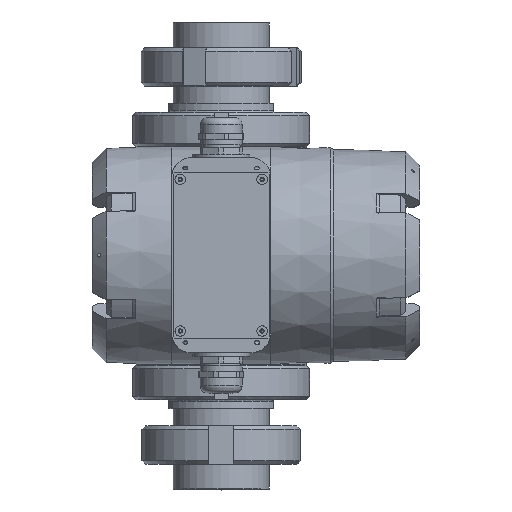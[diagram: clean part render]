
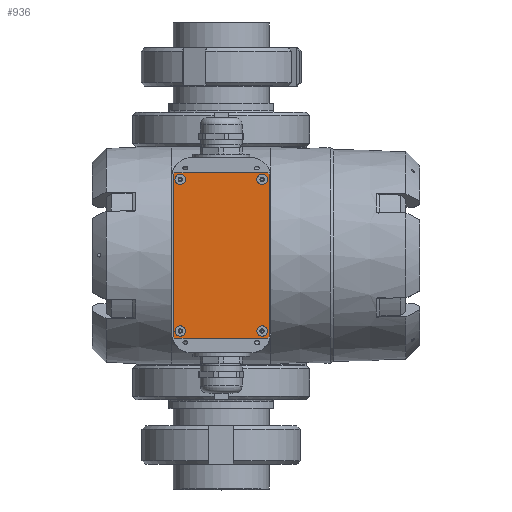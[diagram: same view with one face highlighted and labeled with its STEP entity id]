
A CAD part, top view. The second image highlights one B-rep face of the part: STEP entity #936.
In plain terms, the highlighted planar face has unit normal (0, 0, 1).
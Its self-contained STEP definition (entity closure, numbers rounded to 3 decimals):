
#936=ADVANCED_FACE('',(#8849,#8851,#8853,#8855,#8857),#8859,.T.);
#8849=FACE_BOUND('',#8850,.T.);
#8850=EDGE_LOOP('',(#27449,#27450,#27451,#27452,#27453,#27454,#27455,#27456));
#8851=FACE_BOUND('',#8852,.T.);
#8852=EDGE_LOOP('',(#27457));
#8853=FACE_BOUND('',#8854,.T.);
#8854=EDGE_LOOP('',(#27458));
#8855=FACE_BOUND('',#8856,.T.);
#8856=EDGE_LOOP('',(#27459));
#8857=FACE_BOUND('',#8858,.T.);
#8858=EDGE_LOOP('',(#27460));
#8859=PLANE('',#8860);
#8860=AXIS2_PLACEMENT_3D('',#8861,#8862,#8863);
#8861=CARTESIAN_POINT('',(0.,0.,239.047));
#8862=DIRECTION('',(0.,0.,1.));
#8863=DIRECTION('',(0.,1.,0.));
#27449=ORIENTED_EDGE('',*,*,#31167,.F.);
#27450=ORIENTED_EDGE('',*,*,#31153,.T.);
#27451=ORIENTED_EDGE('',*,*,#31156,.F.);
#27452=ORIENTED_EDGE('',*,*,#31158,.T.);
#27453=ORIENTED_EDGE('',*,*,#31160,.F.);
#27454=ORIENTED_EDGE('',*,*,#31162,.T.);
#27455=ORIENTED_EDGE('',*,*,#31164,.F.);
#27456=ORIENTED_EDGE('',*,*,#31166,.T.);
#27457=ORIENTED_EDGE('',*,*,#31228,.F.);
#27458=ORIENTED_EDGE('',*,*,#31229,.F.);
#27459=ORIENTED_EDGE('',*,*,#31230,.F.);
#27460=ORIENTED_EDGE('',*,*,#31231,.F.);
#31153=EDGE_CURVE('',#33275,#33273,#33276,.T.);
#31156=EDGE_CURVE('',#33278,#33273,#33280,.F.);
#31158=EDGE_CURVE('',#33278,#33281,#33283,.T.);
#31160=EDGE_CURVE('',#33284,#33281,#33286,.F.);
#31162=EDGE_CURVE('',#33284,#33287,#33289,.T.);
#31164=EDGE_CURVE('',#33290,#33287,#33292,.F.);
#31166=EDGE_CURVE('',#33290,#33293,#33295,.T.);
#31167=EDGE_CURVE('',#33275,#33293,#33296,.F.);
#31228=EDGE_CURVE('',#33397,#33397,#33398,.T.);
#31229=EDGE_CURVE('',#33399,#33399,#33400,.T.);
#31230=EDGE_CURVE('',#33401,#33401,#33402,.T.);
#31231=EDGE_CURVE('',#33403,#33403,#33404,.T.);
#33273=VERTEX_POINT('',#38318);
#33275=VERTEX_POINT('',#38322);
#33276=LINE('',#38323,#38324);
#33278=VERTEX_POINT('',#38329);
#33280=LINE('',#38333,#38334);
#33281=VERTEX_POINT('',#38336);
#33283=LINE('',#38340,#38341);
#33284=VERTEX_POINT('',#38343);
#33286=LINE('',#38347,#38348);
#33287=VERTEX_POINT('',#38350);
#33289=LINE('',#38354,#38355);
#33290=VERTEX_POINT('',#38357);
#33292=LINE('',#38361,#38362);
#33293=VERTEX_POINT('',#38364);
#33295=LINE('',#38368,#38369);
#33296=LINE('',#38371,#38372);
#33397=VERTEX_POINT('',#39184);
#33398=CIRCLE('',#39185,3.);
#33399=VERTEX_POINT('',#39189);
#33400=CIRCLE('',#39190,3.);
#33401=VERTEX_POINT('',#39194);
#33402=CIRCLE('',#39195,3.);
#33403=VERTEX_POINT('',#39199);
#33404=CIRCLE('',#39200,3.);
#38318=CARTESIAN_POINT('',(26.5,-47.5,239.047));
#38322=CARTESIAN_POINT('',(-26.5,-47.5,239.047));
#38323=CARTESIAN_POINT('',(-26.5,-47.5,239.047));
#38324=VECTOR('',#38325,1.);
#38325=DIRECTION('',(1.,0.,0.));
#38329=CARTESIAN_POINT('',(27.5,-46.5,239.047));
#38333=CARTESIAN_POINT('',(26.5,-47.5,239.047));
#38334=VECTOR('',#38335,1.);
#38335=DIRECTION('',(0.707,0.707,0.));
#38336=CARTESIAN_POINT('',(27.5,46.5,239.047));
#38340=CARTESIAN_POINT('',(27.5,-46.5,239.047));
#38341=VECTOR('',#38342,1.);
#38342=DIRECTION('',(0.,1.,0.));
#38343=CARTESIAN_POINT('',(26.5,47.5,239.047));
#38347=CARTESIAN_POINT('',(27.5,46.5,239.047));
#38348=VECTOR('',#38349,1.);
#38349=DIRECTION('',(-0.707,0.707,0.));
#38350=CARTESIAN_POINT('',(-26.5,47.5,239.047));
#38354=CARTESIAN_POINT('',(26.5,47.5,239.047));
#38355=VECTOR('',#38356,1.);
#38356=DIRECTION('',(-1.,0.,0.));
#38357=CARTESIAN_POINT('',(-27.5,46.5,239.047));
#38361=CARTESIAN_POINT('',(-26.5,47.5,239.047));
#38362=VECTOR('',#38363,1.);
#38363=DIRECTION('',(-0.707,-0.707,0.));
#38364=CARTESIAN_POINT('',(-27.5,-46.5,239.047));
#38368=CARTESIAN_POINT('',(-27.5,46.5,239.047));
#38369=VECTOR('',#38370,1.);
#38370=DIRECTION('',(0.,-1.,0.));
#38371=CARTESIAN_POINT('',(-27.5,-46.5,239.047));
#38372=VECTOR('',#38373,1.);
#38373=DIRECTION('',(0.707,-0.707,0.));
#39184=CARTESIAN_POINT('',(26.5,-43.5,239.047));
#39185=AXIS2_PLACEMENT_3D('',#39186,#39187,#39188);
#39186=CARTESIAN_POINT('',(23.5,-43.5,239.047));
#39187=DIRECTION('',(0.,0.,1.));
#39188=DIRECTION('',(1.,0.,0.));
#39189=CARTESIAN_POINT('',(-20.5,43.5,239.047));
#39190=AXIS2_PLACEMENT_3D('',#39191,#39192,#39193);
#39191=CARTESIAN_POINT('',(-23.5,43.5,239.047));
#39192=DIRECTION('',(0.,0.,1.));
#39193=DIRECTION('',(1.,0.,0.));
#39194=CARTESIAN_POINT('',(-20.5,-43.5,239.047));
#39195=AXIS2_PLACEMENT_3D('',#39196,#39197,#39198);
#39196=CARTESIAN_POINT('',(-23.5,-43.5,239.047));
#39197=DIRECTION('',(0.,0.,1.));
#39198=DIRECTION('',(1.,0.,0.));
#39199=CARTESIAN_POINT('',(26.5,43.5,239.047));
#39200=AXIS2_PLACEMENT_3D('',#39201,#39202,#39203);
#39201=CARTESIAN_POINT('',(23.5,43.5,239.047));
#39202=DIRECTION('',(0.,0.,1.));
#39203=DIRECTION('',(1.,0.,0.));
